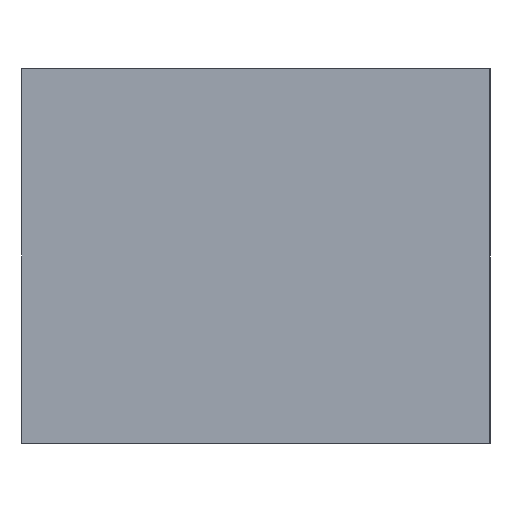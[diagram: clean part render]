
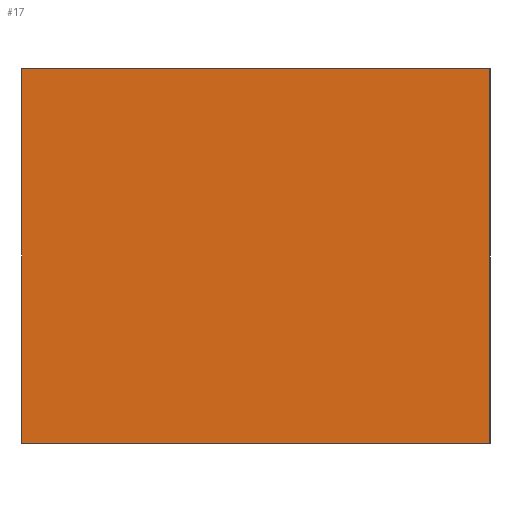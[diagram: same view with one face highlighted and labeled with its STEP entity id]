
A CAD part, left-side view. The second image highlights one B-rep face of the part: STEP entity #17.
In plain terms, the highlighted planar face has unit normal (-1, 0, 0).
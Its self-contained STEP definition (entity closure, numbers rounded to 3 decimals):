
#17 = ADVANCED_FACE('',(#18),#32,.F.);
#18 = FACE_BOUND('',#19,.F.);
#19 = EDGE_LOOP('',(#20,#55,#83,#111));
#20 = ORIENTED_EDGE('',*,*,#21,.F.);
#21 = EDGE_CURVE('',#22,#24,#26,.T.);
#22 = VERTEX_POINT('',#23);
#23 = CARTESIAN_POINT('',(0.,0.,0.));
#24 = VERTEX_POINT('',#25);
#25 = CARTESIAN_POINT('',(0.,0.,4.));
#26 = SURFACE_CURVE('',#27,(#31,#43),.PCURVE_S1.);
#27 = LINE('',#28,#29);
#28 = CARTESIAN_POINT('',(0.,0.,0.));
#29 = VECTOR('',#30,1.);
#30 = DIRECTION('',(0.,0.,1.));
#31 = PCURVE('',#32,#37);
#32 = PLANE('',#33);
#33 = AXIS2_PLACEMENT_3D('',#34,#35,#36);
#34 = CARTESIAN_POINT('',(0.,0.,0.));
#35 = DIRECTION('',(1.,0.,-0.));
#36 = DIRECTION('',(0.,0.,1.));
#37 = DEFINITIONAL_REPRESENTATION('',(#38),#42);
#38 = LINE('',#39,#40);
#39 = CARTESIAN_POINT('',(0.,0.));
#40 = VECTOR('',#41,1.);
#41 = DIRECTION('',(1.,0.));
#42 = ( GEOMETRIC_REPRESENTATION_CONTEXT(2) 
PARAMETRIC_REPRESENTATION_CONTEXT() REPRESENTATION_CONTEXT('2D SPACE',''
  ) );
#43 = PCURVE('',#44,#49);
#44 = PLANE('',#45);
#45 = AXIS2_PLACEMENT_3D('',#46,#47,#48);
#46 = CARTESIAN_POINT('',(0.,0.,0.));
#47 = DIRECTION('',(-0.,1.,0.));
#48 = DIRECTION('',(0.,0.,1.));
#49 = DEFINITIONAL_REPRESENTATION('',(#50),#54);
#50 = LINE('',#51,#52);
#51 = CARTESIAN_POINT('',(0.,0.));
#52 = VECTOR('',#53,1.);
#53 = DIRECTION('',(1.,0.));
#54 = ( GEOMETRIC_REPRESENTATION_CONTEXT(2) 
PARAMETRIC_REPRESENTATION_CONTEXT() REPRESENTATION_CONTEXT('2D SPACE',''
  ) );
#55 = ORIENTED_EDGE('',*,*,#56,.T.);
#56 = EDGE_CURVE('',#22,#57,#59,.T.);
#57 = VERTEX_POINT('',#58);
#58 = CARTESIAN_POINT('',(0.,5.,0.));
#59 = SURFACE_CURVE('',#60,(#64,#71),.PCURVE_S1.);
#60 = LINE('',#61,#62);
#61 = CARTESIAN_POINT('',(0.,0.,0.));
#62 = VECTOR('',#63,1.);
#63 = DIRECTION('',(-0.,1.,0.));
#64 = PCURVE('',#32,#65);
#65 = DEFINITIONAL_REPRESENTATION('',(#66),#70);
#66 = LINE('',#67,#68);
#67 = CARTESIAN_POINT('',(0.,0.));
#68 = VECTOR('',#69,1.);
#69 = DIRECTION('',(0.,-1.));
#70 = ( GEOMETRIC_REPRESENTATION_CONTEXT(2) 
PARAMETRIC_REPRESENTATION_CONTEXT() REPRESENTATION_CONTEXT('2D SPACE',''
  ) );
#71 = PCURVE('',#72,#77);
#72 = PLANE('',#73);
#73 = AXIS2_PLACEMENT_3D('',#74,#75,#76);
#74 = CARTESIAN_POINT('',(0.,0.,0.));
#75 = DIRECTION('',(0.,0.,1.));
#76 = DIRECTION('',(1.,0.,-0.));
#77 = DEFINITIONAL_REPRESENTATION('',(#78),#82);
#78 = LINE('',#79,#80);
#79 = CARTESIAN_POINT('',(0.,0.));
#80 = VECTOR('',#81,1.);
#81 = DIRECTION('',(0.,1.));
#82 = ( GEOMETRIC_REPRESENTATION_CONTEXT(2) 
PARAMETRIC_REPRESENTATION_CONTEXT() REPRESENTATION_CONTEXT('2D SPACE',''
  ) );
#83 = ORIENTED_EDGE('',*,*,#84,.T.);
#84 = EDGE_CURVE('',#57,#85,#87,.T.);
#85 = VERTEX_POINT('',#86);
#86 = CARTESIAN_POINT('',(0.,5.,4.));
#87 = SURFACE_CURVE('',#88,(#92,#99),.PCURVE_S1.);
#88 = LINE('',#89,#90);
#89 = CARTESIAN_POINT('',(0.,5.,0.));
#90 = VECTOR('',#91,1.);
#91 = DIRECTION('',(0.,0.,1.));
#92 = PCURVE('',#32,#93);
#93 = DEFINITIONAL_REPRESENTATION('',(#94),#98);
#94 = LINE('',#95,#96);
#95 = CARTESIAN_POINT('',(0.,-5.));
#96 = VECTOR('',#97,1.);
#97 = DIRECTION('',(1.,0.));
#98 = ( GEOMETRIC_REPRESENTATION_CONTEXT(2) 
PARAMETRIC_REPRESENTATION_CONTEXT() REPRESENTATION_CONTEXT('2D SPACE',''
  ) );
#99 = PCURVE('',#100,#105);
#100 = PLANE('',#101);
#101 = AXIS2_PLACEMENT_3D('',#102,#103,#104);
#102 = CARTESIAN_POINT('',(0.,5.,0.));
#103 = DIRECTION('',(-0.,1.,0.));
#104 = DIRECTION('',(0.,0.,1.));
#105 = DEFINITIONAL_REPRESENTATION('',(#106),#110);
#106 = LINE('',#107,#108);
#107 = CARTESIAN_POINT('',(0.,0.));
#108 = VECTOR('',#109,1.);
#109 = DIRECTION('',(1.,0.));
#110 = ( GEOMETRIC_REPRESENTATION_CONTEXT(2) 
PARAMETRIC_REPRESENTATION_CONTEXT() REPRESENTATION_CONTEXT('2D SPACE',''
  ) );
#111 = ORIENTED_EDGE('',*,*,#112,.F.);
#112 = EDGE_CURVE('',#24,#85,#113,.T.);
#113 = SURFACE_CURVE('',#114,(#118,#125),.PCURVE_S1.);
#114 = LINE('',#115,#116);
#115 = CARTESIAN_POINT('',(0.,0.,4.));
#116 = VECTOR('',#117,1.);
#117 = DIRECTION('',(-0.,1.,0.));
#118 = PCURVE('',#32,#119);
#119 = DEFINITIONAL_REPRESENTATION('',(#120),#124);
#120 = LINE('',#121,#122);
#121 = CARTESIAN_POINT('',(4.,0.));
#122 = VECTOR('',#123,1.);
#123 = DIRECTION('',(0.,-1.));
#124 = ( GEOMETRIC_REPRESENTATION_CONTEXT(2) 
PARAMETRIC_REPRESENTATION_CONTEXT() REPRESENTATION_CONTEXT('2D SPACE',''
  ) );
#125 = PCURVE('',#126,#131);
#126 = PLANE('',#127);
#127 = AXIS2_PLACEMENT_3D('',#128,#129,#130);
#128 = CARTESIAN_POINT('',(0.,0.,4.));
#129 = DIRECTION('',(0.,0.,1.));
#130 = DIRECTION('',(1.,0.,-0.));
#131 = DEFINITIONAL_REPRESENTATION('',(#132),#136);
#132 = LINE('',#133,#134);
#133 = CARTESIAN_POINT('',(0.,0.));
#134 = VECTOR('',#135,1.);
#135 = DIRECTION('',(0.,1.));
#136 = ( GEOMETRIC_REPRESENTATION_CONTEXT(2) 
PARAMETRIC_REPRESENTATION_CONTEXT() REPRESENTATION_CONTEXT('2D SPACE',''
  ) );
